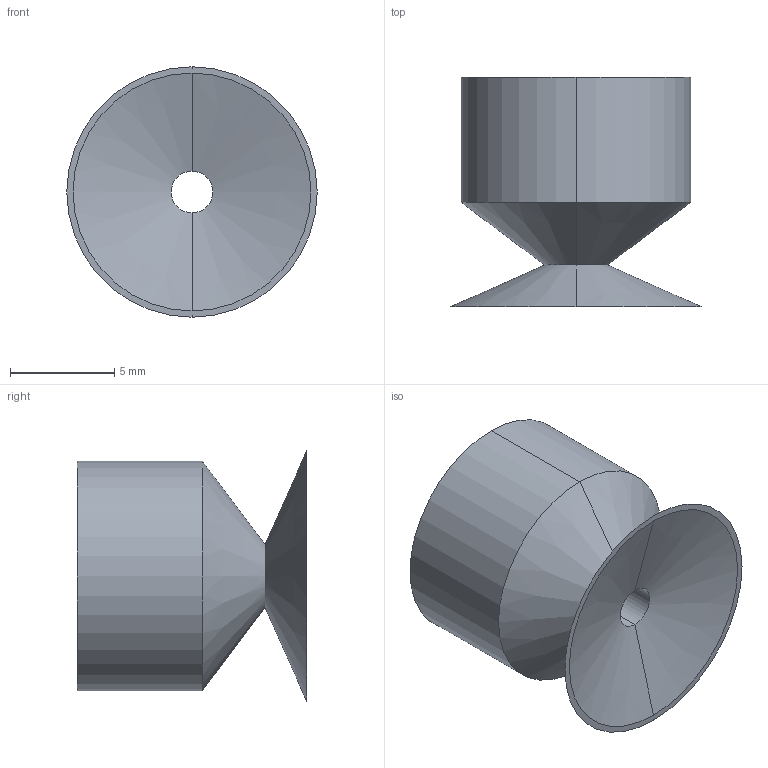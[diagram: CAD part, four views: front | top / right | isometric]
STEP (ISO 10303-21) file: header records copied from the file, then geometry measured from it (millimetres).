
FILE_DESCRIPTION (( 'STEP AP214' ), '1' );
FILE_NAME ('VSH-S12.STEP', '2019-11-30T08:16:58', ( '微软用户' ), ( '微软中国' ), 'SwSTEP 2.0', 'SolidWorks 2016', '' );
FILE_SCHEMA (( 'AUTOMOTIVE_DESIGN' ));
Length unit declared in the file: millimetre
Products named in the file (1): VSH-S12
Bounding box: 12 x 11 x 12 mm (x, y, z)
Volume: 573.1 mm3; surface area: 800.9 mm2
Topology: 1 solids, 1 shells, 18 faces, 36 edges, 22 vertices
Faces by surface type: cylinder 8, cone 6, plane 4
Entity records: 512 total; most frequent: DIRECTION 96, CARTESIAN_POINT 77, ORIENTED_EDGE 72, AXIS2_PLACEMENT_3D 41, EDGE_CURVE 36, VERTEX_POINT 22, EDGE_LOOP 22, CIRCLE 22
